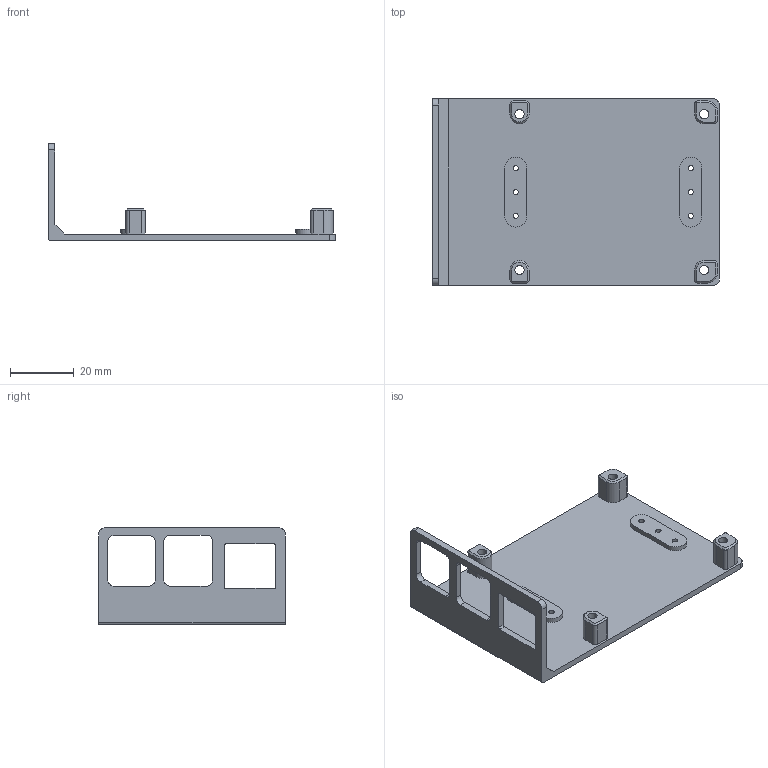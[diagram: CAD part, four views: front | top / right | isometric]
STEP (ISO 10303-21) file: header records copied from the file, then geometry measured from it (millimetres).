
FILE_DESCRIPTION (( 'STEP AP214' ), '1' );
FILE_NAME ('LubanCat 1 菁裔.STEP', '2023-06-06T06:45:25', ( '' ), ( '' ), 'SwSTEP 2.0', 'SolidWorks 2021', '' );
FILE_SCHEMA (( 'AUTOMOTIVE_DESIGN' ));
Length unit declared in the file: millimetre
Products named in the file (1): LubanCat 1 菁裔
Bounding box: 90.1 x 58.6 x 30.4 mm (x, y, z)
Volume: 14026.4 mm3; surface area: 14769.5 mm2
Topology: 1 solids, 1 shells, 148 faces, 372 edges, 232 vertices
Faces by surface type: plane 59, cylinder 55, cone 34
Entity records: 4634 total; most frequent: DIRECTION 814, CARTESIAN_POINT 753, ORIENTED_EDGE 744, EDGE_CURVE 372, AXIS2_PLACEMENT_3D 293, VERTEX_POINT 232, LINE 228, VECTOR 228
